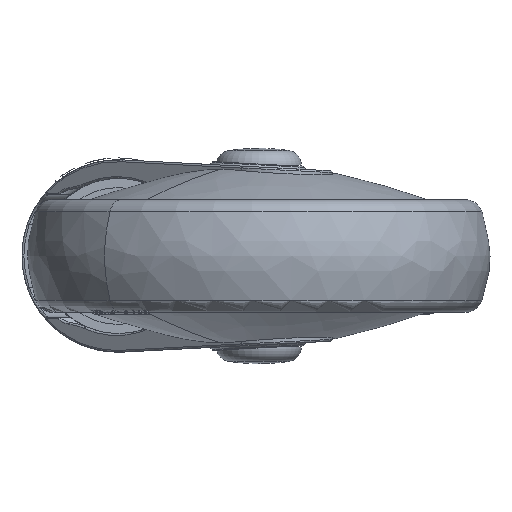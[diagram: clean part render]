
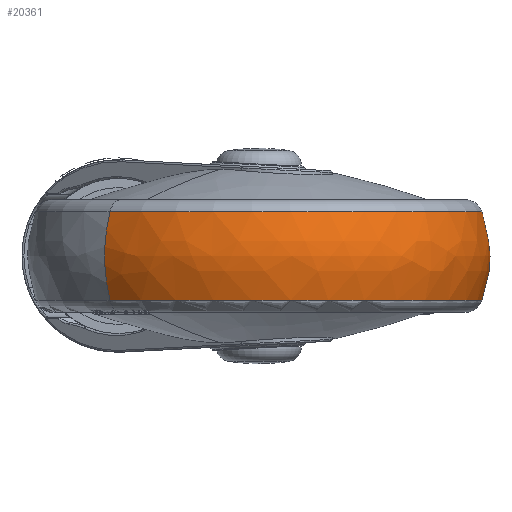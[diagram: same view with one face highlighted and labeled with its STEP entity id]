
A CAD part, front view. The second image highlights one B-rep face of the part: STEP entity #20361.
In plain terms, the highlighted free-form (B-spline) face has degree [3, 3] with [7, 4] control points.
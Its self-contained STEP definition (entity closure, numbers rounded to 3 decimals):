
#15440=CARTESIAN_POINT('',(38.,-88.,-12.017));
#15441=DIRECTION('',(0.,0.,-1.));
#15442=DIRECTION('',(0.667,0.745,0.));
#15443=AXIS2_PLACEMENT_3D('',#15440,#15441,#15442);
#15445=CARTESIAN_POINT('',(18.999,-109.242,0.));
#15446=DIRECTION('',(0.745,-0.667,0.));
#15447=DIRECTION('',(-0.624,-0.697,0.353));
#15448=AXIS2_PLACEMENT_3D('',#15445,#15446,#15447);
#15450=CARTESIAN_POINT('',(38.,-88.,12.017));
#15451=DIRECTION('',(0.,0.,-1.));
#15452=DIRECTION('',(0.667,0.745,0.));
#15453=AXIS2_PLACEMENT_3D('',#15450,#15451,#15452);
#15455=CARTESIAN_POINT('',(57.001,-66.758,0.));
#15456=DIRECTION('',(-0.745,0.667,0.));
#15457=DIRECTION('',(0.624,0.697,0.353));
#15458=AXIS2_PLACEMENT_3D('',#15455,#15456,#15457);
#18945=CARTESIAN_POINT('',(78.205,-43.052,
-12.017));
#18946=CARTESIAN_POINT('',(-2.205,-132.948,
-12.017));
#18947=VERTEX_POINT('',#18945);
#18948=VERTEX_POINT('',#18946);
#18949=CARTESIAN_POINT('',(78.205,-43.052,
12.017));
#18950=CARTESIAN_POINT('',(-2.205,-132.948,
12.017));
#18951=VERTEX_POINT('',#18949);
#18952=VERTEX_POINT('',#18950);
#20324=CARTESIAN_POINT('',(-4.822,-130.211,
-12.476));
#20325=CARTESIAN_POINT('',(-7.101,-132.457,
-4.361));
#20326=CARTESIAN_POINT('',(-7.101,-132.457,
4.361));
#20327=CARTESIAN_POINT('',(-4.822,-130.211,
12.476));
#20328=CARTESIAN_POINT('',(21.154,-156.563,
-12.476));
#20329=CARTESIAN_POINT('',(20.258,-160.213,
-4.361));
#20330=CARTESIAN_POINT('',(20.258,-160.213,
4.361));
#20331=CARTESIAN_POINT('',(21.154,-156.563,
12.476));
#20332=CARTESIAN_POINT('',(58.147,-155.667,
-12.476));
#20333=CARTESIAN_POINT('',(59.219,-159.268,
-4.361));
#20334=CARTESIAN_POINT('',(59.219,-159.268,
4.361));
#20335=CARTESIAN_POINT('',(58.147,-155.667,
12.476));
#20336=CARTESIAN_POINT('',(82.816,-128.087,
-12.476));
#20337=CARTESIAN_POINT('',(85.202,-130.221,
-4.361));
#20338=CARTESIAN_POINT('',(85.202,-130.221,
4.361));
#20339=CARTESIAN_POINT('',(82.816,-128.087,
12.476));
#20340=CARTESIAN_POINT('',(107.485,-100.507,
-12.476));
#20341=CARTESIAN_POINT('',(111.184,-101.173,
-4.361));
#20342=CARTESIAN_POINT('',(111.184,-101.173,
4.361));
#20343=CARTESIAN_POINT('',(107.485,-100.507,
12.476));
#20344=CARTESIAN_POINT('',(104.268,-63.644,
-12.476));
#20345=CARTESIAN_POINT('',(107.795,-62.348,
-4.361));
#20346=CARTESIAN_POINT('',(107.795,-62.348,
4.361));
#20347=CARTESIAN_POINT('',(104.268,-63.644,
12.476));
#20348=CARTESIAN_POINT('',(75.194,-40.755,
-12.476));
#20349=CARTESIAN_POINT('',(77.174,-38.241,
-4.361));
#20350=CARTESIAN_POINT('',(77.174,-38.241,
4.361));
#20351=CARTESIAN_POINT('',(75.194,-40.755,
12.476));
#20352=(BOUNDED_SURFACE()B_SPLINE_SURFACE(3,3,((#20324,#20325,#20326,#20327),(
#20328,#20329,#20330,#20331),(#20332,#20333,#20334,#20335),(#20336,#20337,
#20338,#20339),(#20340,#20341,#20342,#20343),(#20344,#20345,#20346,#20347),(
#20348,#20349,#20350,#20351)),.UNSPECIFIED.,.F.,.F.,.F.)B_SPLINE_SURFACE_WITH_KNOTS((4,3,4),(4,4),(0.,1.,2.),(0.,1.),.UNSPECIFIED.)GEOMETRIC_REPRESENTATION_ITEM()RATIONAL_B_SPLINE_SURFACE(((1.23,1.173,
1.173,1.23),(0.971,0.926,
0.926,0.971),(0.971,0.926,
0.926,0.971),(1.23,1.173,
1.173,1.23),(0.971,0.926,
0.926,0.971),(0.971,0.926,
0.926,0.971),(1.23,1.173,
1.173,1.23)))REPRESENTATION_ITEM('')SURFACE());
#20354=ORIENTED_EDGE('',*,*,#20353,.T.);
#20355=ORIENTED_EDGE('',*,*,#19921,.F.);
#20357=ORIENTED_EDGE('',*,*,#20356,.F.);
#20358=ORIENTED_EDGE('',*,*,#19917,.T.);
#20359=EDGE_LOOP('',(#20354,#20355,#20357,#20358));
#20360=FACE_OUTER_BOUND('',#20359,.F.);
#15444=CIRCLE('',#15443,60.305);
#15449=CIRCLE('',#15448,34.);
#15454=CIRCLE('',#15453,60.305);
#15459=CIRCLE('',#15458,34.);
#19917=EDGE_CURVE('',#18951,#18947,#15459,.T.);
#19921=EDGE_CURVE('',#18952,#18948,#15449,.T.);
#20353=EDGE_CURVE('',#18947,#18948,#15444,.T.);
#20356=EDGE_CURVE('',#18951,#18952,#15454,.T.);
#20361=ADVANCED_FACE('',(#20360),#20352,.T.);
